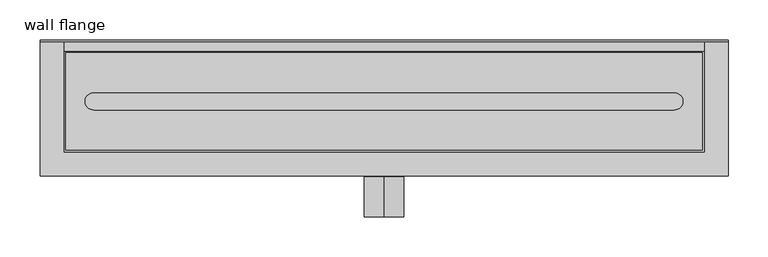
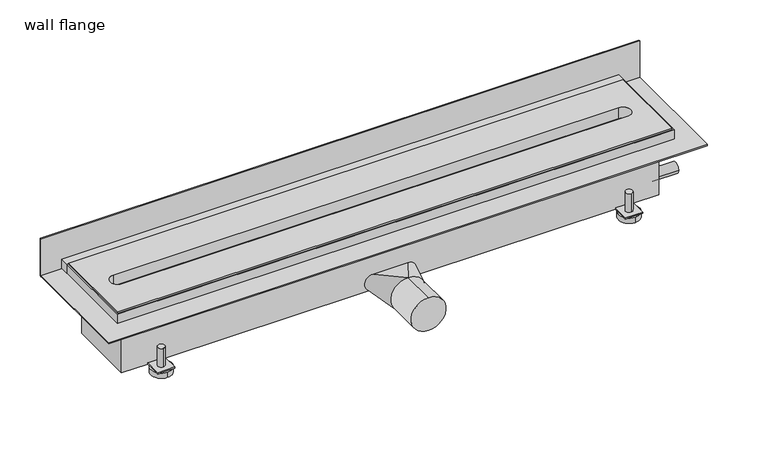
"""IFC4 building model written with IfcOpenShell, lengths in millimetres: sanitary terminal geometry, PF_UN_ShowerDrain X_ACO : wall flange."""

from ifc_helpers import new_model, si_unit, point, frame, frame_2d, origin, origin_with_axes, place, context, project, spatial, polyline, circle_curve, trimmed, segment, composite_curve, outline, extrude, faceted_brep, source, transform, mapped, element, save
from ifc_brep_helpers import plane_surface, cylinder_surface, spline_surface, advanced_brep


def wall_flange_95a8d4df(model_context):
    return source(origin(), model_context, "Body", "SolidModel", [
        advanced_brep(
        [(-336.0, 67.0, -56.0), (-336.0, 57.0, -56.0), (-336.0, 77.0, -94.0), (-336.0, 47.0, -94.0), (-336.0, 67.0, -86.0), (-336.0, 57.0, -86.0), (-336.0, 77.0, -86.0), (-336.0, 47.0, -86.0)],
        [
            (0, 1, circle_curve(frame((-336.0, 62.0, -56.0), z_axis=(0.0, 0.0, 1.0), x_axis=(0.0, -1.0, 0.0)), 5.0)),
            (1, 0, circle_curve(frame((-336.0, 62.0, -56.0), z_axis=(0.0, 0.0, 1.0), x_axis=(0.0, -1.0, 0.0)), 5.0)),
            (2, 3, circle_curve(frame((-336.0, 62.0, -94.0), z_axis=(0.0, 0.0, -1.0), x_axis=(0.0, -1.0, 0.0)), 15.0)),
            (3, 2, circle_curve(frame((-336.0, 62.0, -94.0), z_axis=(0.0, 0.0, -1.0), x_axis=(0.0, -1.0, 0.0)), 15.0)),
            (0, 4),
            (4, 5, circle_curve(frame((-336.0, 62.0, -86.0), z_axis=(0.0, 0.0, 1.0), x_axis=(0.0, -1.0, 0.0)), 5.0)),
            (5, 1),
            (5, 4, circle_curve(frame((-336.0, 62.0, -86.0), z_axis=(0.0, 0.0, 1.0), x_axis=(0.0, -1.0, 0.0)), 5.0)),
            (6, 7, circle_curve(frame((-336.0, 62.0, -86.0), z_axis=(0.0, 0.0, 1.0), x_axis=(0.0, -1.0, 0.0)), 15.0)),
            (7, 6, circle_curve(frame((-336.0, 62.0, -86.0), z_axis=(0.0, 0.0, 1.0), x_axis=(0.0, -1.0, 0.0)), 15.0)),
            (6, 2),
            (3, 7),
        ],
        [
            plane_surface(frame((-336.0, 57.0, -56.0), z_axis=(0.0, 0.0, 1.0), x_axis=(1.0, 0.0, 0.0))),
            plane_surface(frame((-336.0, 57.0, -94.0), z_axis=(0.0, 0.0, -1.0), x_axis=(-1.0, 0.0, 0.0))),
            cylinder_surface(frame((-336.0, 62.0, -94.0), z_axis=(0.0, 0.0, 1.0), x_axis=(0.0, -1.0, 0.0)), 5.0),
            plane_surface(frame((-336.0, 47.0, -86.0), z_axis=(0.0, 0.0, 1.0), x_axis=(1.0, 0.0, 0.0))),
            cylinder_surface(frame((-336.0, 62.0, -94.0), z_axis=(0.0, 0.0, 1.0), x_axis=(0.0, -1.0, 0.0)), 15.0),
        ],
        [
            (0, [[1, 2]]),
            (1, [[3, 4]]),
            (2, [[-1, 5, 6, 7]]),
            (2, [[-2, -7, 8, -5]]),
            (3, [[9, 10], [-6, -8]]),
            (4, [[-9, 11, -4, 12]]),
            (4, [[-10, -12, -3, -11]]),
        ],
    ),
        advanced_brep(
        [(-336.0, -56.5, -56.0), (-336.0, -66.5, -56.0), (-336.0, -46.5, -94.0), (-336.0, -76.5, -94.0), (-336.0, -56.5, -86.0), (-336.0, -66.5, -86.0), (-336.0, -46.5, -86.0), (-336.0, -76.5, -86.0)],
        [
            (0, 1, circle_curve(frame((-336.0, -61.5, -56.0), z_axis=(0.0, 0.0, 1.0), x_axis=(0.0, -1.0, 0.0)), 5.0)),
            (1, 0, circle_curve(frame((-336.0, -61.5, -56.0), z_axis=(0.0, 0.0, 1.0), x_axis=(0.0, -1.0, 0.0)), 5.0)),
            (2, 3, circle_curve(frame((-336.0, -61.5, -94.0), z_axis=(0.0, 0.0, -1.0), x_axis=(0.0, -1.0, 0.0)), 15.0)),
            (3, 2, circle_curve(frame((-336.0, -61.5, -94.0), z_axis=(0.0, 0.0, -1.0), x_axis=(0.0, -1.0, 0.0)), 15.0)),
            (0, 4),
            (4, 5, circle_curve(frame((-336.0, -61.5, -86.0), z_axis=(0.0, 0.0, 1.0), x_axis=(0.0, -1.0, 0.0)), 5.0)),
            (5, 1),
            (5, 4, circle_curve(frame((-336.0, -61.5, -86.0), z_axis=(0.0, 0.0, 1.0), x_axis=(0.0, -1.0, 0.0)), 5.0)),
            (6, 7, circle_curve(frame((-336.0, -61.5, -86.0), z_axis=(0.0, 0.0, 1.0), x_axis=(0.0, -1.0, 0.0)), 15.0)),
            (7, 6, circle_curve(frame((-336.0, -61.5, -86.0), z_axis=(0.0, 0.0, 1.0), x_axis=(0.0, -1.0, 0.0)), 15.0)),
            (6, 2),
            (3, 7),
        ],
        [
            plane_surface(frame((-336.0, 57.0, -56.0), z_axis=(0.0, 0.0, 1.0), x_axis=(1.0, 0.0, 0.0))),
            plane_surface(frame((-336.0, 57.0, -94.0), z_axis=(0.0, 0.0, -1.0), x_axis=(-1.0, 0.0, 0.0))),
            cylinder_surface(frame((-336.0, -61.5, -94.0), z_axis=(0.0, 0.0, 1.0), x_axis=(0.0, -1.0, 0.0)), 5.0),
            plane_surface(frame((-336.0, 47.0, -86.0), z_axis=(0.0, 0.0, 1.0), x_axis=(1.0, 0.0, 0.0))),
            cylinder_surface(frame((-336.0, -61.5, -94.0), z_axis=(0.0, 0.0, 1.0), x_axis=(0.0, -1.0, 0.0)), 15.0),
        ],
        [
            (0, [[1, 2]]),
            (1, [[3, 4]]),
            (2, [[-1, 5, 6, 7]]),
            (2, [[-2, -7, 8, -5]]),
            (3, [[9, 10], [-6, -8]]),
            (4, [[-9, 11, -4, 12]]),
            (4, [[-10, -12, -3, -11]]),
        ],
    ),
        advanced_brep(
        [(336.0, 67.0, -56.0), (336.0, 57.0, -56.0), (336.0, 77.0, -94.0), (336.0, 47.0, -94.0), (336.0, 67.0, -86.0), (336.0, 57.0, -86.0), (336.0, 77.0, -86.0), (336.0, 47.0, -86.0)],
        [
            (0, 1, circle_curve(frame((336.0, 62.0, -56.0), z_axis=(0.0, 0.0, 1.0), x_axis=(0.0, -1.0, 0.0)), 5.0)),
            (1, 0, circle_curve(frame((336.0, 62.0, -56.0), z_axis=(0.0, 0.0, 1.0), x_axis=(0.0, -1.0, 0.0)), 5.0)),
            (2, 3, circle_curve(frame((336.0, 62.0, -94.0), z_axis=(0.0, 0.0, -1.0), x_axis=(0.0, -1.0, 0.0)), 15.0)),
            (3, 2, circle_curve(frame((336.0, 62.0, -94.0), z_axis=(0.0, 0.0, -1.0), x_axis=(0.0, -1.0, 0.0)), 15.0)),
            (0, 4),
            (4, 5, circle_curve(frame((336.0, 62.0, -86.0), z_axis=(0.0, 0.0, 1.0), x_axis=(0.0, -1.0, 0.0)), 5.0)),
            (5, 1),
            (5, 4, circle_curve(frame((336.0, 62.0, -86.0), z_axis=(0.0, 0.0, 1.0), x_axis=(0.0, -1.0, 0.0)), 5.0)),
            (6, 7, circle_curve(frame((336.0, 62.0, -86.0), z_axis=(0.0, 0.0, 1.0), x_axis=(0.0, -1.0, 0.0)), 15.0)),
            (7, 6, circle_curve(frame((336.0, 62.0, -86.0), z_axis=(0.0, 0.0, 1.0), x_axis=(0.0, -1.0, 0.0)), 15.0)),
            (6, 2),
            (3, 7),
        ],
        [
            plane_surface(frame((-336.0, 57.0, -56.0), z_axis=(0.0, 0.0, 1.0), x_axis=(1.0, 0.0, 0.0))),
            plane_surface(frame((-336.0, 57.0, -94.0), z_axis=(0.0, 0.0, -1.0), x_axis=(-1.0, 0.0, 0.0))),
            cylinder_surface(frame((336.0, 62.0, -94.0), z_axis=(0.0, 0.0, 1.0), x_axis=(0.0, -1.0, 0.0)), 5.0),
            plane_surface(frame((-336.0, 47.0, -86.0), z_axis=(0.0, 0.0, 1.0), x_axis=(1.0, 0.0, 0.0))),
            cylinder_surface(frame((336.0, 62.0, -94.0), z_axis=(0.0, 0.0, 1.0), x_axis=(0.0, -1.0, 0.0)), 15.0),
        ],
        [
            (0, [[1, 2]]),
            (1, [[3, 4]]),
            (2, [[-1, 5, 6, 7]]),
            (2, [[-2, -7, 8, -5]]),
            (3, [[9, 10], [-6, -8]]),
            (4, [[-9, 11, -4, 12]]),
            (4, [[-10, -12, -3, -11]]),
        ],
    ),
        advanced_brep(
        [(336.0, -56.5, -56.0), (336.0, -66.5, -56.0), (336.0, -46.5, -94.0), (336.0, -76.5, -94.0), (336.0, -56.5, -86.0), (336.0, -66.5, -86.0), (336.0, -46.5, -86.0), (336.0, -76.5, -86.0)],
        [
            (0, 1, circle_curve(frame((336.0, -61.5, -56.0), z_axis=(0.0, 0.0, 1.0), x_axis=(0.0, -1.0, 0.0)), 5.0)),
            (1, 0, circle_curve(frame((336.0, -61.5, -56.0), z_axis=(0.0, 0.0, 1.0), x_axis=(0.0, -1.0, 0.0)), 5.0)),
            (2, 3, circle_curve(frame((336.0, -61.5, -94.0), z_axis=(0.0, 0.0, -1.0), x_axis=(0.0, -1.0, 0.0)), 15.0)),
            (3, 2, circle_curve(frame((336.0, -61.5, -94.0), z_axis=(0.0, 0.0, -1.0), x_axis=(0.0, -1.0, 0.0)), 15.0)),
            (0, 4),
            (4, 5, circle_curve(frame((336.0, -61.5, -86.0), z_axis=(0.0, 0.0, 1.0), x_axis=(0.0, -1.0, 0.0)), 5.0)),
            (5, 1),
            (5, 4, circle_curve(frame((336.0, -61.5, -86.0), z_axis=(0.0, 0.0, 1.0), x_axis=(0.0, -1.0, 0.0)), 5.0)),
            (6, 7, circle_curve(frame((336.0, -61.5, -86.0), z_axis=(0.0, 0.0, 1.0), x_axis=(0.0, -1.0, 0.0)), 15.0)),
            (7, 6, circle_curve(frame((336.0, -61.5, -86.0), z_axis=(0.0, 0.0, 1.0), x_axis=(0.0, -1.0, 0.0)), 15.0)),
            (6, 2),
            (3, 7),
        ],
        [
            plane_surface(frame((-336.0, 57.0, -56.0), z_axis=(0.0, 0.0, 1.0), x_axis=(1.0, 0.0, 0.0))),
            plane_surface(frame((-336.0, 57.0, -94.0), z_axis=(0.0, 0.0, -1.0), x_axis=(-1.0, 0.0, 0.0))),
            cylinder_surface(frame((336.0, -61.5, -94.0), z_axis=(0.0, 0.0, 1.0), x_axis=(0.0, -1.0, 0.0)), 5.0),
            plane_surface(frame((-336.0, 47.0, -86.0), z_axis=(0.0, 0.0, 1.0), x_axis=(1.0, 0.0, 0.0))),
            cylinder_surface(frame((336.0, -61.5, -94.0), z_axis=(0.0, 0.0, 1.0), x_axis=(0.0, -1.0, 0.0)), 15.0),
        ],
        [
            (0, [[1, 2]]),
            (1, [[3, 4]]),
            (2, [[-1, 5, 6, 7]]),
            (2, [[-2, -7, 8, -5]]),
            (3, [[9, 10], [-6, -8]]),
            (4, [[-9, 11, -4, 12]]),
            (4, [[-10, -12, -3, -11]]),
        ],
    ),
        extrude(outline(polyline([(400.0, 75.0), (400.0, 63.0), (-400.0, 63.0), (-400.0, 75.0), (400.0, 75.0)])), frame((0.0, 0.0, 2.0), z_axis=(0.0, 0.0, 1.0), x_axis=(1.0, 0.0, 0.0)), (0.0, 0.0, 1.0), 14.0),
        extrude(outline(polyline([(430.0, 75.0), (-430.0, 75.0), (-430.0, 77.0), (430.0, 77.0), (430.0, 75.0)])), origin_with_axes(), (0.0, 0.0, 1.0), 57.0),
        advanced_brep(
        [(386.0, 50.0, -86.0), (386.0, -49.0, -86.0), (348.5, -49.0, -86.0), (348.5, -74.0, -86.0), (323.5, -74.0, -86.0), (323.5, -49.0, -86.0), (-323.5, -49.0, -86.0), (-323.5, -74.0, -86.0), (-348.5, -74.0, -86.0), (-348.5, -49.0, -86.0), (-386.0, -49.0, -86.0), (-386.0, 50.0, -86.0), (-348.5, 50.0, -86.0), (-348.5, 74.0, -86.0), (-323.5, 74.0, -86.0), (-323.5, 50.0, -86.0), (323.5, 50.0, -86.0), (323.5, 74.0, -86.0), (348.5, 74.0, -86.0), (348.5, 50.0, -86.0), (386.0, 50.0, -8.0), (-386.0, 50.0, -8.0), (-386.0, -49.0, -8.0), (386.0, -49.0, -8.0), (348.5, 50.0, -84.0), (323.5, 50.0, -84.0), (-323.5, 50.0, -84.0), (-348.5, 50.0, -84.0), (-348.5, -49.0, -84.0), (-323.5, -49.0, -84.0), (323.5, -49.0, -84.0), (348.5, -49.0, -84.0), (386.0, -37.85, -68.0), (386.0, -22.15, -68.0), (386.0, 24.15, -32.0), (386.0, 39.85, -32.0), (421.0, -37.85, -68.0), (421.0, -22.15, -68.0), (421.0, 24.15, -32.0), (421.0, 39.85, -32.0), (-323.5, 74.0, -84.0), (-348.5, 74.0, -84.0), (348.5, 74.0, -84.0), (323.5, 74.0, -84.0), (348.5, -74.0, -84.0), (323.5, -74.0, -84.0), (-348.5, -74.0, -84.0), (-323.5, -74.0, -84.0)],
        [
            (0, 1),
            (1, 2),
            (2, 3),
            (3, 4),
            (4, 5),
            (5, 6),
            (6, 7),
            (7, 8),
            (8, 9),
            (9, 10),
            (10, 11),
            (11, 12),
            (12, 13),
            (13, 14),
            (14, 15),
            (15, 16),
            (16, 17),
            (17, 18),
            (18, 19),
            (19, 0),
            (20, 21),
            (21, 22),
            (22, 23),
            (23, 20),
            (20, 0),
            (19, 24),
            (24, 25),
            (25, 16),
            (15, 26),
            (26, 27),
            (27, 12),
            (11, 21),
            (10, 22),
            (9, 28),
            (28, 29),
            (29, 6),
            (5, 30),
            (30, 31),
            (31, 2),
            (1, 23),
            (32, 33, circle_curve(frame((386.0, -30.0, -68.0), z_axis=(-1.0, 0.0, 0.0), x_axis=(0.0, 1.0, 0.0)), 7.85)),
            (33, 32, circle_curve(frame((386.0, -30.0, -68.0), z_axis=(-1.0, 0.0, 0.0), x_axis=(0.0, 1.0, 0.0)), 7.85)),
            (34, 35, circle_curve(frame((386.0, 32.0, -32.0), z_axis=(-1.0, 0.0, 0.0), x_axis=(0.0, 1.0, 0.0)), 7.85)),
            (35, 34, circle_curve(frame((386.0, 32.0, -32.0), z_axis=(-1.0, 0.0, 0.0), x_axis=(0.0, 1.0, 0.0)), 7.85)),
            (36, 37, circle_curve(frame((421.0, -30.0, -68.0), z_axis=(1.0, 0.0, 0.0), x_axis=(0.0, 1.0, 0.0)), 7.85)),
            (37, 36, circle_curve(frame((421.0, -30.0, -68.0), z_axis=(1.0, 0.0, 0.0), x_axis=(0.0, 1.0, 0.0)), 7.85)),
            (37, 33),
            (32, 36),
            (38, 39, circle_curve(frame((421.0, 32.0, -32.0), z_axis=(1.0, 0.0, 0.0), x_axis=(0.0, 1.0, 0.0)), 7.85)),
            (39, 38, circle_curve(frame((421.0, 32.0, -32.0), z_axis=(1.0, 0.0, 0.0), x_axis=(0.0, 1.0, 0.0)), 7.85)),
            (39, 35),
            (34, 38),
            (40, 41),
            (41, 27),
            (26, 40),
            (42, 43),
            (43, 25),
            (24, 42),
            (44, 31),
            (30, 45),
            (45, 44),
            (46, 47),
            (47, 29),
            (28, 46),
            (40, 14),
            (13, 41),
            (42, 18),
            (17, 43),
            (44, 3),
            (4, 45),
            (46, 8),
            (7, 47),
        ],
        [
            plane_surface(frame((-386.0, 50.0, -86.0), z_axis=(0.0, 0.0, -1.0), x_axis=(1.0, 0.0, 0.0))),
            plane_surface(frame((-386.0, 50.0, -8.0), z_axis=(0.0, 0.0, 1.0), x_axis=(-1.0, 0.0, 0.0))),
            plane_surface(frame((386.0, 50.0, -8.0), z_axis=(0.0, 1.0, 0.0), x_axis=(0.0, 0.0, -1.0))),
            plane_surface(frame((-386.0, 50.0, -8.0), z_axis=(-1.0, 0.0, 0.0), x_axis=(0.0, 0.0, -1.0))),
            plane_surface(frame((-386.0, -49.0, -8.0), z_axis=(0.0, -1.0, 0.0), x_axis=(0.0, 0.0, -1.0))),
            plane_surface(frame((386.0, -49.0, -8.0), z_axis=(1.0, 0.0, 0.0), x_axis=(0.0, 0.0, -1.0))),
            plane_surface(frame((421.0, -30.0, -68.0), z_axis=(1.0, 0.0, 0.0), x_axis=(0.0, 0.0, 1.0))),
            cylinder_surface(frame((0.0, -30.0, -68.0), z_axis=(-1.0, 0.0, 0.0), x_axis=(0.0, 1.0, 0.0)), 7.85),
            plane_surface(frame((421.0, 32.0, -32.0), z_axis=(1.0, 0.0, 0.0), x_axis=(0.0, 0.0, 1.0))),
            cylinder_surface(frame((0.0, 32.0, -32.0), z_axis=(-1.0, 0.0, 0.0), x_axis=(0.0, 1.0, 0.0)), 7.85),
            plane_surface(frame((-348.5, 74.0, -84.0), z_axis=(0.0, 0.0, 1.0), x_axis=(-1.0, 0.0, 0.0))),
            plane_surface(frame((-323.5, 74.0, -84.0), z_axis=(0.0, 1.0, 0.0), x_axis=(0.0, 0.0, -1.0))),
            plane_surface(frame((-348.5, 74.0, -84.0), z_axis=(-1.0, 0.0, 0.0), x_axis=(0.0, 0.0, -1.0))),
            plane_surface(frame((-323.5, 50.0, -84.0), z_axis=(1.0, 0.0, 0.0), x_axis=(0.0, 0.0, -1.0))),
            plane_surface(frame((348.5, 74.0, -84.0), z_axis=(0.0, 1.0, 0.0), x_axis=(0.0, 0.0, -1.0))),
            plane_surface(frame((323.5, 74.0, -84.0), z_axis=(-1.0, 0.0, 0.0), x_axis=(0.0, 0.0, -1.0))),
            plane_surface(frame((348.5, 50.0, -84.0), z_axis=(1.0, 0.0, 0.0), x_axis=(0.0, 0.0, -1.0))),
            plane_surface(frame((348.5, -74.0, -84.0), z_axis=(1.0, 0.0, 0.0), x_axis=(0.0, 0.0, -1.0))),
            plane_surface(frame((323.5, -49.0, -84.0), z_axis=(-1.0, 0.0, 0.0), x_axis=(0.0, 0.0, -1.0))),
            plane_surface(frame((323.5, -74.0, -84.0), z_axis=(0.0, -1.0, 0.0), x_axis=(0.0, 0.0, -1.0))),
            plane_surface(frame((-348.5, -74.0, -84.0), z_axis=(0.0, -1.0, 0.0), x_axis=(0.0, 0.0, -1.0))),
            plane_surface(frame((-323.5, -74.0, -84.0), z_axis=(1.0, 0.0, 0.0), x_axis=(0.0, 0.0, -1.0))),
            plane_surface(frame((-348.5, -49.0, -84.0), z_axis=(-1.0, 0.0, 0.0), x_axis=(0.0, 0.0, -1.0))),
        ],
        [
            (0, [[1, 2, 3, 4, 5, 6, 7, 8, 9, 10, 11, 12, 13, 14, 15, 16, 17, 18, 19, 20]]),
            (1, [[21, 22, 23, 24]]),
            (2, [[-21, 25, -20, 26, 27, 28, -16, 29, 30, 31, -12, 32]]),
            (3, [[-11, 33, -22, -32]]),
            (4, [[-23, -33, -10, 34, 35, 36, -6, 37, 38, 39, -2, 40]]),
            (5, [[-1, -25, -24, -40], [41, 42], [43, 44]]),
            (6, [[45, 46]]),
            (7, [[-46, 47, -41, 48]]),
            (7, [[-45, -48, -42, -47]]),
            (8, [[49, 50]]),
            (9, [[-50, 51, -43, 52]]),
            (9, [[-49, -52, -44, -51]]),
            (10, [[53, 54, -30, 55]]),
            (10, [[56, 57, -27, 58]]),
            (10, [[59, -38, 60, 61]]),
            (10, [[62, 63, -35, 64]]),
            (11, [[-53, 65, -14, 66]]),
            (12, [[-54, -66, -13, -31]]),
            (13, [[-55, -29, -15, -65]]),
            (14, [[-56, 67, -18, 68]]),
            (15, [[-57, -68, -17, -28]]),
            (16, [[-58, -26, -19, -67]]),
            (17, [[-59, 69, -3, -39]]),
            (18, [[-60, -37, -5, 70]]),
            (19, [[-61, -70, -4, -69]]),
            (20, [[-62, 71, -8, 72]]),
            (21, [[-63, -72, -7, -36]]),
            (22, [[-64, -34, -9, -71]]),
        ],
    ),
        extrude(outline(polyline([(398.0, 61.0), (398.0, -61.0), (-398.0, -61.0), (-398.0, 61.0), (398.0, 61.0)]), holes=[composite_curve([segment(polyline([(363.0860312, 10.6770786), (-363.0900069, 10.6770786)]), True, "CONTINUOUS"), segment(trimmed(circle_curve(frame_2d((-363.0900069, 0.0)), 10.6770786), [point((-363.0900069, 10.6770786))], [point((-363.0900069, -10.6770786))], True, "CARTESIAN"), True, "CONTINUOUS"), segment(polyline([(-363.0900069, -10.6770786), (363.0860312, -10.6770786)]), True, "CONTINUOUS"), segment(trimmed(circle_curve(frame_2d((363.0860312, 0.0)), 10.6770786), [point((363.0860312, -10.6770786))], [point((363.0860312, 10.6770786))], True, "CARTESIAN"), True, "CONTINUOUS")], self_intersect=False)]), origin_with_axes(), (0.0, 0.0, 1.0), 18.0),
        advanced_brep(
        [(0.0, -144.5, -99.0), (0.0, -144.5, -49.0), (0.0, -94.5, -99.0), (13.0, -94.5, -95.3541565), (13.0005627, -94.5, -52.6461861), (0.0, -94.5, -49.0), (-13.0, -94.5, -52.6458435), (-13.0, -94.5, -95.3541565), (25.0, -50.0, -86.0), (-25.0, -50.0, -86.0), (-25.0, -50.0, -62.0), (25.0, -50.0, -62.0)],
        [
            (0, 1, circle_curve(frame((0.0, -144.5, -74.0), z_axis=(0.0, -1.0, 0.0), x_axis=(0.0, 0.0, 1.0)), 25.0)),
            (1, 0, circle_curve(frame((0.0, -144.5, -74.0), z_axis=(0.0, -1.0, 0.0), x_axis=(0.0, 0.0, 1.0)), 25.0)),
            (0, 2),
            (2, 3, circle_curve(frame((0.0, -94.5, -74.0), z_axis=(0.0, -1.0, 0.0), x_axis=(0.0, 0.0, 1.0)), 25.0)),
            (3, 4, circle_curve(frame((0.0, -94.5, -74.0), z_axis=(0.0, -1.0, 0.0), x_axis=(0.0, 0.0, 1.0)), 25.0)),
            (4, 5, circle_curve(frame((0.0, -94.5, -74.0), z_axis=(0.0, -1.0, 0.0), x_axis=(0.0, 0.0, 1.0)), 25.0)),
            (5, 1),
            (5, 6, circle_curve(frame((0.0, -94.5, -74.0), z_axis=(0.0, -1.0, 0.0), x_axis=(0.0, 0.0, 1.0)), 25.0)),
            (6, 7, circle_curve(frame((0.0, -94.5, -74.0), z_axis=(0.0, -1.0, 0.0), x_axis=(0.0, 0.0, 1.0)), 25.0)),
            (7, 2, circle_curve(frame((0.0, -94.5, -74.0), z_axis=(0.0, -1.0, 0.0), x_axis=(0.0, 0.0, 1.0)), 25.0)),
            (8, 9),
            (9, 10, circle_curve(frame((-25.0, -50.0, -74.0), z_axis=(0.0, 1.0, 0.0), x_axis=(0.0, 0.0, 1.0)), 12.0)),
            (10, 11),
            (11, 8, circle_curve(frame((25.0, -50.0, -74.0), z_axis=(0.0, 1.0, 0.0), x_axis=(0.0, 0.0, 1.0)), 12.0)),
            (8, 2),
            (2, 9),
            (5, 10),
            (5, 11),
        ],
        [
            plane_surface(frame((0.0, -144.5, -74.0), z_axis=(0.0, -1.0, 0.0), x_axis=(1.0, 0.0, 0.0))),
            cylinder_surface(frame((0.0, -144.5, -74.0), z_axis=(0.0, -1.0, 0.0), x_axis=(0.0, 0.0, 1.0)), 25.0),
            plane_surface(frame((0.0, -50.0, -74.0), z_axis=(0.0, 1.0, 0.0), x_axis=(-1.0, 0.0, 0.0))),
            plane_surface(frame((0.0, -94.5, -99.0), z_axis=(0.0, 0.2804141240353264, -0.9598791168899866), x_axis=(-1.0, 0.0, 0.0))),
            spline_surface(2, 1, [[(0.0, -94.5, -99.0), (-25.0, -50.0, -86.0)], [(-25.0, -94.5, -99.0), (-37.0, -50.0, -86.0)], [(-25.0, -94.5, -74.0), (-37.0, -50.0, -74.0)], [(-25.0, -94.5, -49.0), (-37.0, -50.0, -62.0)], [(0.0, -94.5, -49.0), (-25.0, -50.0, -62.0)]], [3, 2, 3], [2, 2], [0.0, 1.0, 2.0], [0.0, 1.0], weights=[[1.0, 1.0], [0.7071067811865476, 0.7071067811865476], [1.0, 1.0], [0.7071067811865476, 0.7071067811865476], [1.0, 1.0]]),
            plane_surface(frame((0.0, -94.5, -49.0), z_axis=(0.0, 0.2804141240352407, 0.9598791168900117), x_axis=(1.0, 0.0, 0.0))),
            spline_surface(2, 1, [[(0.0, -94.5, -49.0), (25.0, -50.0, -62.0)], [(25.0, -94.5, -49.0), (37.0, -50.0, -62.0)], [(25.0, -94.5, -74.0), (37.0, -50.0, -74.0)], [(25.0, -94.5, -99.0), (37.0, -50.0, -86.0)], [(0.0, -94.5, -99.0), (25.0, -50.0, -86.0)]], [3, 2, 3], [2, 2], [0.0, 1.0, 2.0], [0.0, 1.0], weights=[[1.0, 1.0], [0.7071067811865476, 0.7071067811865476], [1.0, 1.0], [0.7071067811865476, 0.7071067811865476], [1.0, 1.0]]),
        ],
        [
            (0, [[1, 2]]),
            (1, [[-1, 3, 4, 5, 6, 7]]),
            (1, [[-2, -7, 8, 9, 10, -3]]),
            (2, [[11, 12, 13, 14]]),
            (3, [[-11, 15, 16]]),
            (4, [[-12, -16, -10, -9, -8, 17]]),
            (5, [[-13, -17, 18]]),
            (6, [[-14, -18, -6, -5, -4, -15]]),
        ],
    ),
        extrude(outline(polyline([(430.0, 77.0), (430.0, -93.0), (-430.0, -93.0), (-430.0, 77.0), (430.0, 77.0)])), origin_with_axes(), (0.0, 0.0, 1.0), 2.0),
        faceted_brep([(400.0, 63.0, 16.0), (-400.0, 63.0, 16.0), (-400.0, -63.0, 16.0), (400.0, -63.0, 16.0), (-398.0, 61.0, 16.0), (398.0, 61.0, 16.0), (398.0, -61.0, 16.0), (-398.0, -61.0, 16.0), (400.0, 63.0, -8.0), (400.0, -63.0, -8.0), (-400.0, -63.0, -8.0), (-400.0, 63.0, -8.0), (398.0, 61.0, -6.0), (-398.0, 61.0, -6.0), (-398.0, -61.0, -6.0), (398.0, -61.0, -6.0)], [[[0, 1, 2, 3], [4, 5, 6, 7]], [[8, 9, 10, 11]], [[1, 0, 8, 11]], [[2, 1, 11, 10]], [[3, 2, 10, 9]], [[0, 3, 9, 8]], [[12, 13, 14, 15]], [[13, 12, 5, 4]], [[14, 13, 4, 7]], [[15, 14, 7, 6]], [[12, 15, 6, 5]]]),
    ])


if __name__ == "__main__":
    model = new_model("IFC4")
    model_context = context("Model", 3, world=origin())
    ifc_project = project(units=[si_unit("LENGTHUNIT", "METRE", prefix="MILLI")], contexts=[model_context])
    site = spatial("IfcSite", under=ifc_project)
    building = spatial("IfcBuilding", under=site)
    placement = place(None, origin())
    wall_flange_shape = wall_flange_95a8d4df(model_context)
    element("IfcSanitaryTerminal", 1, ObjectType="PF_UN_ShowerDrain X_ACO : wall flange", at=placement, inside=building, context=model_context, shape_type="MappedRepresentation", body=[
        mapped(wall_flange_shape, transform((0.0, 0.0, 0.0), x_axis=(1.0, 0.0, 0.0), y_axis=(0.0, 1.0, 0.0), z_axis=(0.0, 0.0, 1.0))),
    ])
    save(model, "model.ifc")
